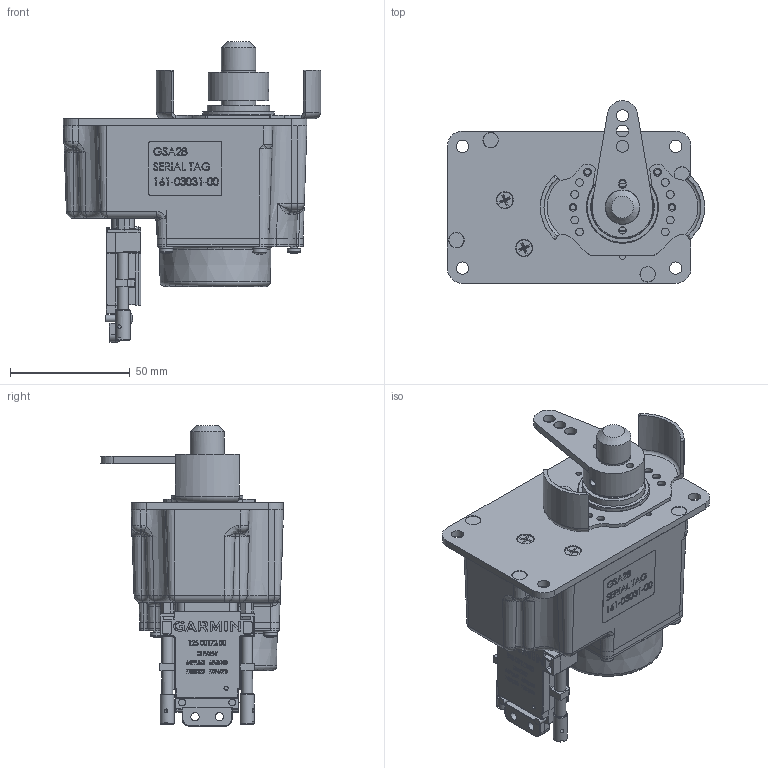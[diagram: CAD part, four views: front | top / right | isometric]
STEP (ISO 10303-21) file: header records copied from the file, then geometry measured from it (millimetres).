
FILE_DESCRIPTION (( 'STEP AP203' ), '1' );
FILE_NAME ('GSA28_rev4.STEP', '2013-03-19T21:46:50', ( 'Garmin' ), ( 'Garmin' ), 'SwSTEP 2.0', 'SolidWorks 2012', '' );
FILE_SCHEMA (( 'CONFIG_CONTROL_DESIGN' ));
Length unit declared in the file: millimetre
Products named in the file (1): GSA28_rev4
Bounding box: 107.28 x 76.18 x 125.34 mm (x, y, z)
Volume: 320775 mm3; surface area: 54961.1 mm2
Topology: 3 solids, 25 shells, 2348 faces, 6069 edges, 3893 vertices
Faces by surface type: plane 1198, bspline 514, cylinder 437, cone 104, torus 80, sphere 15
Full cylindrical faces by diameter (mm): 1.016 x15, 1.587 x2, 1.778 x1, 2.261 x14, 2.286 x1, 2.5 x3, 2.54 x1, 2.845 x6, 3 x13, 3.05 x2, 3.251 x12, 3.302 x4, 3.4 x5, 3.454 x2, 3.48 x4, 3.5 x4, 3.505 x2, 3.683 x1, 3.861 x2, 4.216 x1, 4.572 x2, 4.801 x2, 4.978 x3, 5.156 x4, 5.5 x3, 5.588 x2, 5.944 x2, 6 x1, 6.24 x4, 6.452 x4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
Entity records: 102648 total; most frequent: CARTESIAN_POINT 51018, ORIENTED_EDGE 11426, DIRECTION 8822, EDGE_CURVE 5713, VERTEX_POINT 3780, AXIS2_PLACEMENT_3D 2974, LINE 2874, VECTOR 2874
